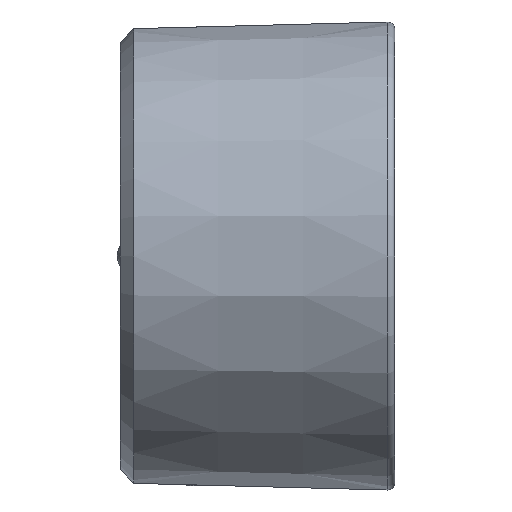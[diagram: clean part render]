
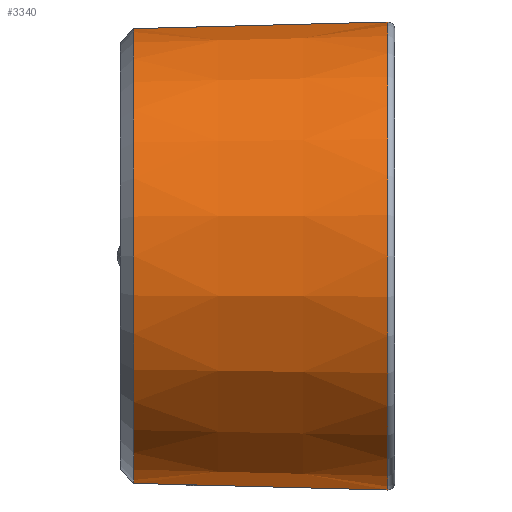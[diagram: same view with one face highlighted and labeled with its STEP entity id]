
A CAD part, left-side view. The second image highlights one B-rep face of the part: STEP entity #3340.
In plain terms, the highlighted conical face has half-angle 1.5 degrees and reference radius 17.251 mm.
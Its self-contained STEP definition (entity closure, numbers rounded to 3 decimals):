
#17=CONICAL_SURFACE('',#3624,17.251,1.5);
#175=LINE('',#6248,#336);
#179=LINE('',#6258,#340);
#336=VECTOR('',#4190,1.);
#340=VECTOR('',#4202,1.);
#763=FACE_OUTER_BOUND('',#981,.T.);
#981=EDGE_LOOP('',(#2365,#2366,#2367,#2368));
#1222=CIRCLE('',#3625,17.5);
#1223=CIRCLE('',#3626,17.002);
#1339=VERTEX_POINT('',#5015);
#1424=VERTEX_POINT('',#5943);
#1457=VERTEX_POINT('',#6254);
#1458=VERTEX_POINT('',#6256);
#1817=EDGE_CURVE('',#1424,#1339,#175,.T.);
#1821=EDGE_CURVE('',#1457,#1339,#1222,.T.);
#1822=EDGE_CURVE('',#1458,#1424,#1223,.T.);
#1823=EDGE_CURVE('',#1458,#1457,#179,.T.);
#2365=ORIENTED_EDGE('',*,*,#1821,.T.);
#2366=ORIENTED_EDGE('',*,*,#1817,.F.);
#2367=ORIENTED_EDGE('',*,*,#1822,.F.);
#2368=ORIENTED_EDGE('',*,*,#1823,.T.);
#3340=ADVANCED_FACE('',(#763),#17,.T.);
#3624=AXIS2_PLACEMENT_3D('',#6253,#4196,#4197);
#3625=AXIS2_PLACEMENT_3D('',#6255,#4198,#4199);
#3626=AXIS2_PLACEMENT_3D('',#6257,#4200,#4201);
#4190=DIRECTION('',(0.,-1.,0.026));
#4196=DIRECTION('center_axis',(0.,-1.,0.));
#4197=DIRECTION('ref_axis',(0.,0.,1.));
#4198=DIRECTION('center_axis',(0.,1.,0.));
#4199=DIRECTION('ref_axis',(0.,0.,-1.));
#4200=DIRECTION('center_axis',(0.,1.,0.));
#4201=DIRECTION('ref_axis',(0.,0.,-1.));
#4202=DIRECTION('',(0.,-1.,-0.026));
#5015=CARTESIAN_POINT('',(-12.5,0.013,117.5));
#5943=CARTESIAN_POINT('',(-12.5,19.,117.002));
#6248=CARTESIAN_POINT('',(-12.5,19.,117.002));
#6253=CARTESIAN_POINT('Origin',(-12.5,9.5,100.));
#6254=CARTESIAN_POINT('',(-12.5,0.013,82.5));
#6255=CARTESIAN_POINT('Origin',(-12.5,0.013,100.));
#6256=CARTESIAN_POINT('',(-12.5,19.,82.998));
#6257=CARTESIAN_POINT('Origin',(-12.5,19.,100.));
#6258=CARTESIAN_POINT('',(-12.5,19.,82.998));
